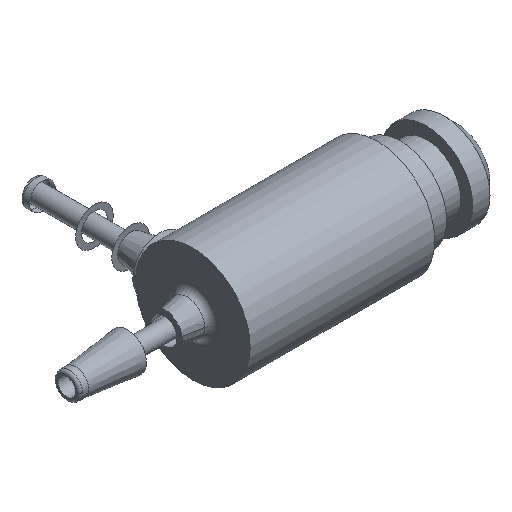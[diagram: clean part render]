
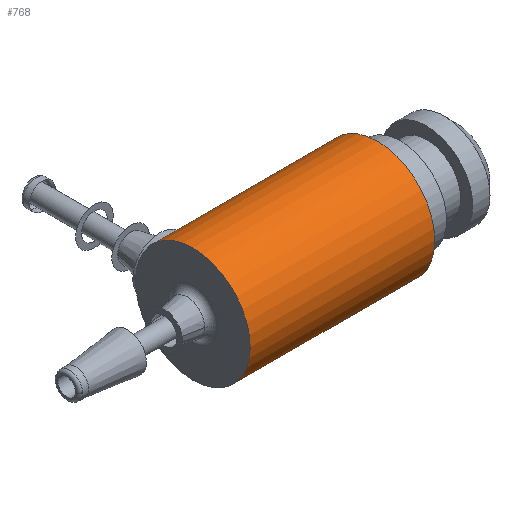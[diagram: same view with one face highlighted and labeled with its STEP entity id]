
A CAD part, isometric view. The second image highlights one B-rep face of the part: STEP entity #768.
In plain terms, the highlighted cylindrical face has radius 3.96 mm (diameter 7.92 mm), a full revolution.
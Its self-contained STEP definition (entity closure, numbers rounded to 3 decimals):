
#13=B_SPLINE_CURVE_WITH_KNOTS('',3,(#1420,#1421,#1422,#1423,#1424,#1425,
#1426,#1427,#1428,#1429,#1430,#1431,#1432,#1433,#1434,#1435,#1436,#1437,
#1438,#1439,#1440,#1441,#1442,#1443,#1444,#1445,#1446,#1447,#1448,#1449,
#1450,#1451,#1452,#1453),.UNSPECIFIED.,.T.,.F.,(4,2,2,2,2,2,2,2,2,2,2,2,
2,2,2,2,4),(-1.135,-1.064,-0.993,-0.922,
-0.851,-0.78,-0.709,-0.638,
-0.567,-0.496,-0.425,-0.354,
-0.284,-0.213,-0.142,-0.071,
0.),.UNSPECIFIED.);
#59=CYLINDRICAL_SURFACE('',#907,3.96);
#88=FACE_OUTER_BOUND('',#134,.T.);
#134=EDGE_LOOP('',(#644,#645,#646,#647,#648,#649,#650));
#183=LINE('',#1474,#207);
#207=VECTOR('',#1166,3.96);
#285=CIRCLE('',#908,3.96);
#286=CIRCLE('',#909,3.96);
#287=CIRCLE('',#910,3.96);
#288=CIRCLE('',#911,3.96);
#368=VERTEX_POINT('',#1419);
#375=VERTEX_POINT('',#1470);
#376=VERTEX_POINT('',#1471);
#377=VERTEX_POINT('',#1473);
#470=EDGE_CURVE('',#368,#368,#13,.F.);
#479=EDGE_CURVE('',#375,#376,#285,.T.);
#480=EDGE_CURVE('',#376,#377,#183,.T.);
#481=EDGE_CURVE('',#368,#377,#286,.T.);
#482=EDGE_CURVE('',#377,#368,#287,.T.);
#483=EDGE_CURVE('',#376,#375,#288,.T.);
#644=ORIENTED_EDGE('',*,*,#479,.T.);
#645=ORIENTED_EDGE('',*,*,#480,.T.);
#646=ORIENTED_EDGE('',*,*,#481,.F.);
#647=ORIENTED_EDGE('',*,*,#470,.T.);
#648=ORIENTED_EDGE('',*,*,#482,.F.);
#649=ORIENTED_EDGE('',*,*,#480,.F.);
#650=ORIENTED_EDGE('',*,*,#483,.T.);
#768=ADVANCED_FACE('',(#88),#59,.T.);
#907=AXIS2_PLACEMENT_3D('',#1469,#1162,#1163);
#908=AXIS2_PLACEMENT_3D('',#1472,#1164,#1165);
#909=AXIS2_PLACEMENT_3D('',#1475,#1167,#1168);
#910=AXIS2_PLACEMENT_3D('',#1476,#1169,#1170);
#911=AXIS2_PLACEMENT_3D('',#1477,#1171,#1172);
#1162=DIRECTION('center_axis',(1.,0.,0.));
#1163=DIRECTION('ref_axis',(0.,0.,1.));
#1164=DIRECTION('center_axis',(-1.,0.,0.));
#1165=DIRECTION('ref_axis',(0.,-1.,0.));
#1166=DIRECTION('',(-1.,0.,0.));
#1167=DIRECTION('center_axis',(-1.,0.,0.));
#1168=DIRECTION('ref_axis',(0.,-1.,0.));
#1169=DIRECTION('center_axis',(-1.,0.,0.));
#1170=DIRECTION('ref_axis',(0.,-1.,0.));
#1171=DIRECTION('center_axis',(-1.,0.,0.));
#1172=DIRECTION('ref_axis',(0.,-1.,0.));
#1419=CARTESIAN_POINT('',(-6.375,3.96,0.));
#1420=CARTESIAN_POINT('Ctrl Pts',(-4.525,3.501,-1.85));
#1421=CARTESIAN_POINT('Ctrl Pts',(-4.762,3.501,-1.85));
#1422=CARTESIAN_POINT('Ctrl Pts',(-5.011,3.528,-1.802));
#1423=CARTESIAN_POINT('Ctrl Pts',(-5.465,3.619,-1.612));
#1424=CARTESIAN_POINT('Ctrl Pts',(-5.671,3.681,-1.471));
#1425=CARTESIAN_POINT('Ctrl Pts',(-5.995,3.794,-1.146));
#1426=CARTESIAN_POINT('Ctrl Pts',(-6.137,3.854,-0.94));
#1427=CARTESIAN_POINT('Ctrl Pts',(-6.327,3.937,-0.486));
#1428=CARTESIAN_POINT('Ctrl Pts',(-6.375,3.96,-0.236));
#1429=CARTESIAN_POINT('Ctrl Pts',(-6.375,3.96,0.236));
#1430=CARTESIAN_POINT('Ctrl Pts',(-6.327,3.937,0.486));
#1431=CARTESIAN_POINT('Ctrl Pts',(-6.137,3.854,0.94));
#1432=CARTESIAN_POINT('Ctrl Pts',(-5.995,3.794,1.146));
#1433=CARTESIAN_POINT('Ctrl Pts',(-5.671,3.681,1.471));
#1434=CARTESIAN_POINT('Ctrl Pts',(-5.465,3.619,1.612));
#1435=CARTESIAN_POINT('Ctrl Pts',(-5.011,3.528,1.802));
#1436=CARTESIAN_POINT('Ctrl Pts',(-4.762,3.501,1.85));
#1437=CARTESIAN_POINT('Ctrl Pts',(-4.288,3.501,1.85));
#1438=CARTESIAN_POINT('Ctrl Pts',(-4.039,3.528,1.802));
#1439=CARTESIAN_POINT('Ctrl Pts',(-3.585,3.619,1.612));
#1440=CARTESIAN_POINT('Ctrl Pts',(-3.379,3.681,1.471));
#1441=CARTESIAN_POINT('Ctrl Pts',(-3.055,3.794,1.146));
#1442=CARTESIAN_POINT('Ctrl Pts',(-2.913,3.854,0.94));
#1443=CARTESIAN_POINT('Ctrl Pts',(-2.723,3.937,0.486));
#1444=CARTESIAN_POINT('Ctrl Pts',(-2.675,3.96,0.236));
#1445=CARTESIAN_POINT('Ctrl Pts',(-2.675,3.96,-0.236));
#1446=CARTESIAN_POINT('Ctrl Pts',(-2.723,3.937,-0.486));
#1447=CARTESIAN_POINT('Ctrl Pts',(-2.913,3.854,-0.94));
#1448=CARTESIAN_POINT('Ctrl Pts',(-3.055,3.794,-1.146));
#1449=CARTESIAN_POINT('Ctrl Pts',(-3.379,3.681,-1.471));
#1450=CARTESIAN_POINT('Ctrl Pts',(-3.585,3.619,-1.612));
#1451=CARTESIAN_POINT('Ctrl Pts',(-4.039,3.528,-1.802));
#1452=CARTESIAN_POINT('Ctrl Pts',(-4.288,3.501,-1.85));
#1453=CARTESIAN_POINT('Ctrl Pts',(-4.525,3.501,-1.85));
#1469=CARTESIAN_POINT('Origin',(6.375,0.,0.));
#1470=CARTESIAN_POINT('',(6.375,-3.96,0.));
#1471=CARTESIAN_POINT('',(6.375,0.,-3.96));
#1472=CARTESIAN_POINT('Origin',(6.375,0.,0.));
#1473=CARTESIAN_POINT('',(-6.375,0.,-3.96));
#1474=CARTESIAN_POINT('',(6.375,0.,-3.96));
#1475=CARTESIAN_POINT('Origin',(-6.375,0.,0.));
#1476=CARTESIAN_POINT('Origin',(-6.375,0.,0.));
#1477=CARTESIAN_POINT('Origin',(6.375,0.,0.));
